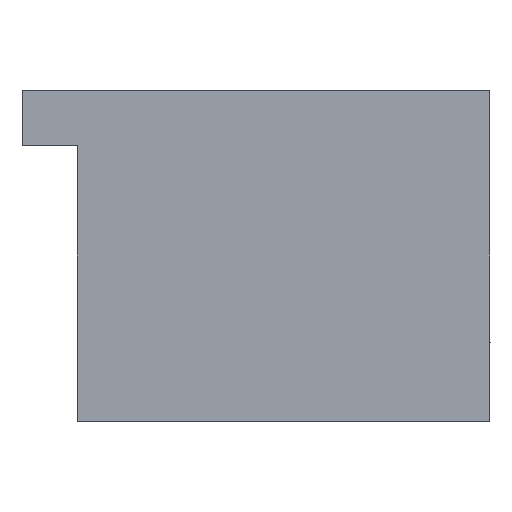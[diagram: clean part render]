
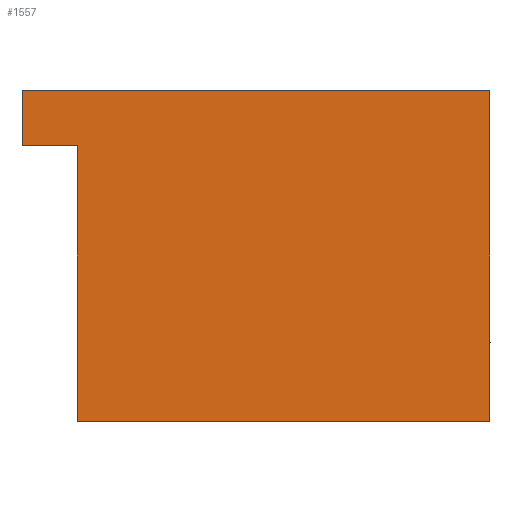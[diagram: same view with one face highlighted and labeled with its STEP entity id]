
A CAD part, left-side view. The second image highlights one B-rep face of the part: STEP entity #1557.
In plain terms, the highlighted planar face has unit normal (-1, 0, 0).
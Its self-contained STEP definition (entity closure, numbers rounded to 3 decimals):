
#1535=AXIS2_PLACEMENT_3D('Plane Axis2P3D',#1532,#1533,#1534) ;
#212=CARTESIAN_POINT('Vertex',(-110.,14.75,6.)) ;
#226=CARTESIAN_POINT('Vertex',(-110.,14.75,-9.)) ;
#229=CARTESIAN_POINT('Line Origine',(-110.,14.75,-1.5)) ;
#600=CARTESIAN_POINT('Line Origine',(-110.,16.25,6.)) ;
#604=CARTESIAN_POINT('Vertex',(-110.,17.75,6.)) ;
#1010=CARTESIAN_POINT('Line Origine',(-110.,17.75,7.5)) ;
#1014=CARTESIAN_POINT('Vertex',(-110.,17.75,9.)) ;
#1506=CARTESIAN_POINT('Line Origine',(-110.,5.,9.)) ;
#1510=CARTESIAN_POINT('Vertex',(-110.,-7.75,9.)) ;
#1532=CARTESIAN_POINT('Axis2P3D Location',(-110.,14.75,9.)) ;
#1537=CARTESIAN_POINT('Line Origine',(-110.,-7.75,0.)) ;
#1541=CARTESIAN_POINT('Vertex',(-110.,-7.75,-9.)) ;
#1544=CARTESIAN_POINT('Line Origine',(-110.,3.5,-9.)) ;
#230=DIRECTION('Vector Direction',(0.,0.,-1.)) ;
#601=DIRECTION('Vector Direction',(0.,-1.,0.)) ;
#1011=DIRECTION('Vector Direction',(0.,0.,-1.)) ;
#1507=DIRECTION('Vector Direction',(0.,-1.,0.)) ;
#1533=DIRECTION('Axis2P3D Direction',(1.,0.,-0.)) ;
#1534=DIRECTION('Axis2P3D XDirection',(0.,1.,0.)) ;
#1538=DIRECTION('Vector Direction',(0.,0.,-1.)) ;
#1545=DIRECTION('Vector Direction',(0.,-1.,0.)) ;
#231=VECTOR('Line Direction',#230,1.) ;
#602=VECTOR('Line Direction',#601,1.) ;
#1012=VECTOR('Line Direction',#1011,1.) ;
#1508=VECTOR('Line Direction',#1507,1.) ;
#1539=VECTOR('Line Direction',#1538,1.) ;
#1546=VECTOR('Line Direction',#1545,1.) ;
#1550=ORIENTED_EDGE('',*,*,#1543,.F.) ;
#1551=ORIENTED_EDGE('',*,*,#1512,.F.) ;
#1552=ORIENTED_EDGE('',*,*,#1016,.T.) ;
#1553=ORIENTED_EDGE('',*,*,#606,.T.) ;
#1554=ORIENTED_EDGE('',*,*,#233,.T.) ;
#1555=ORIENTED_EDGE('',*,*,#1548,.T.) ;
#1557=ADVANCED_FACE('\X2\62535B545C3A5BF8\X0\(%\X2\6839636E\X0\)\X2\5185516D89D2570667F1593487BA948976847C7B578B\X0\1',(#1556),#1536,.F.) ;
#233=EDGE_CURVE('',#213,#227,#232,.T.) ;
#606=EDGE_CURVE('',#605,#213,#603,.T.) ;
#1016=EDGE_CURVE('',#1015,#605,#1013,.T.) ;
#1512=EDGE_CURVE('',#1015,#1511,#1509,.T.) ;
#1543=EDGE_CURVE('',#1511,#1542,#1540,.T.) ;
#1548=EDGE_CURVE('',#227,#1542,#1547,.T.) ;
#1549=EDGE_LOOP('',(#1550,#1551,#1552,#1553,#1554,#1555)) ;
#1556=FACE_OUTER_BOUND('',#1549,.T.) ;
#232=LINE('Line',#229,#231) ;
#603=LINE('Line',#600,#602) ;
#1013=LINE('Line',#1010,#1012) ;
#1509=LINE('Line',#1506,#1508) ;
#1540=LINE('Line',#1537,#1539) ;
#1547=LINE('Line',#1544,#1546) ;
#1536=PLANE('',#1535) ;
#213=VERTEX_POINT('',#212) ;
#227=VERTEX_POINT('',#226) ;
#605=VERTEX_POINT('',#604) ;
#1015=VERTEX_POINT('',#1014) ;
#1511=VERTEX_POINT('',#1510) ;
#1542=VERTEX_POINT('',#1541) ;
